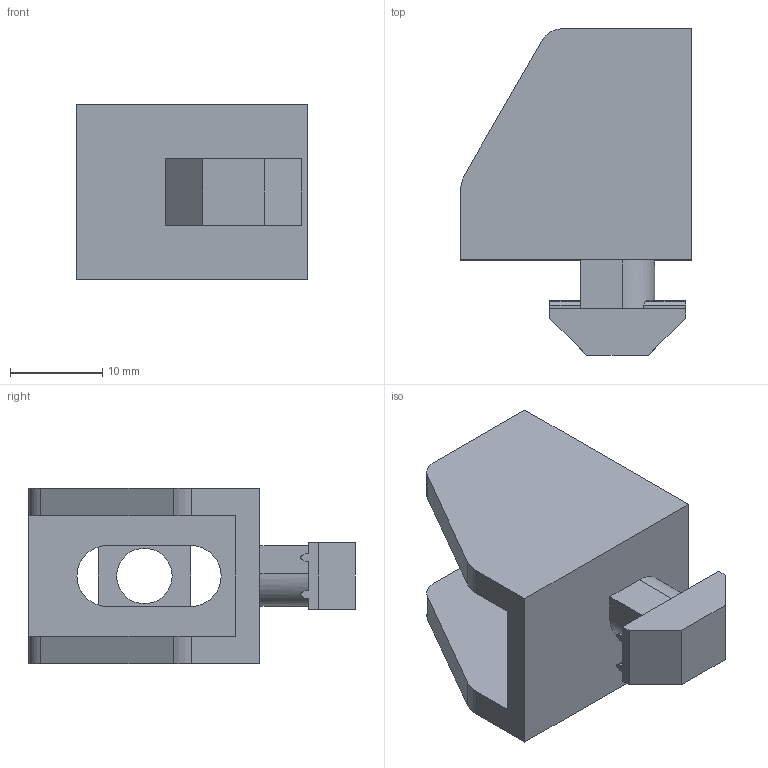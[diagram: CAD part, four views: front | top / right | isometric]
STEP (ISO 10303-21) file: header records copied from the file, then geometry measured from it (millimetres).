
FILE_DESCRIPTION (( 'STEP AP203' ), '1' );
FILE_NAME ('10575_UNI12PA.STEP', '2018-04-20T09:45:24', ( '' ), ( '' ), 'SwSTEP 2.0', 'SolidWorks 2017', '' );
FILE_SCHEMA (( 'CONFIG_CONTROL_DESIGN' ));
Length unit declared in the file: millimetre
Products named in the file (3): 094-04_M5; 10575_Grundelement; 10575_UNI12PA
Assembly tree (2 placements, depth 2):
  10575_UNI12PA
    10575_Grundelement
    094-04_M5
Bounding box: 25 x 35.3 x 19 mm (x, y, z)
Volume: 6277.9 mm3; surface area: 4884.2 mm2
Topology: 2 solids, 2 shells, 74 faces, 204 edges, 136 vertices
Faces by surface type: plane 58, cylinder 16
Entity records: 2667 total; most frequent: CARTESIAN_POINT 445, ORIENTED_EDGE 408, DIRECTION 388, EDGE_CURVE 204, VECTOR 166, LINE 166, VERTEX_POINT 136, AXIS2_PLACEMENT_3D 111
